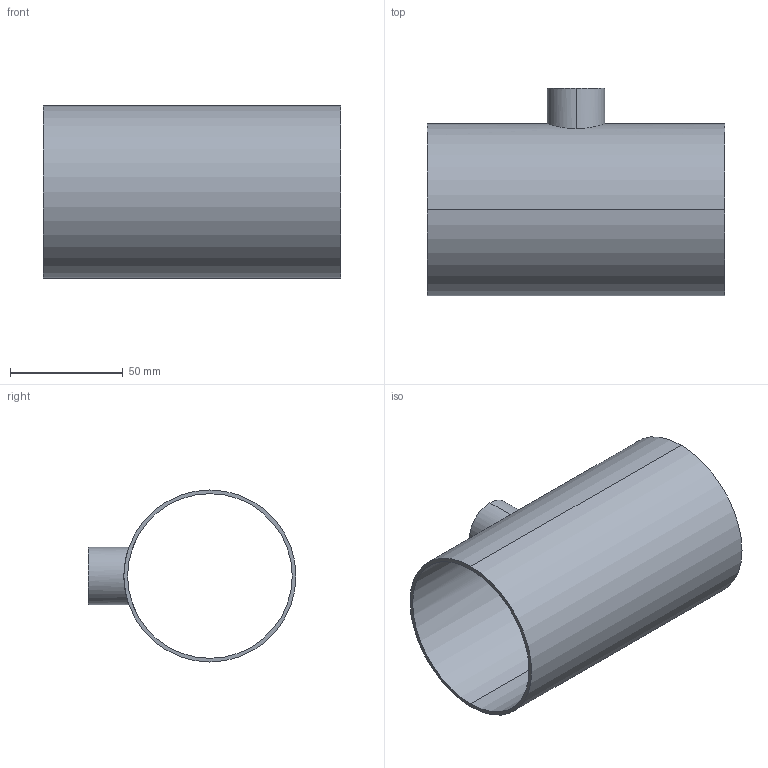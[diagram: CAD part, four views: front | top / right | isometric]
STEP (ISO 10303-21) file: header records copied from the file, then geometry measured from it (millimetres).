
FILE_DESCRIPTION (( 'STEP AP203' ), '1' );
FILE_NAME ('E7RWWW3.0X1.0.STEP', '2018-04-30T18:47:46', ( 'vneprd' ), ( 'Microsoft' ), 'SwSTEP 2.0', 'SolidWorks 2014', '' );
FILE_SCHEMA (( 'CONFIG_CONTROL_DESIGN' ));
Length unit declared in the file: inch
Products named in the file (1): E7RWWW3.0X1.0
Bounding box: 131.75 x 92.08 x 76.2 mm (x, y, z)
Volume: 52375.3 mm3; surface area: 64335.7 mm2
Topology: 1 solids, 1 shells, 11 faces, 24 edges, 16 vertices
Faces by surface type: cylinder 8, plane 3
Entity records: 579 total; most frequent: CARTESIAN_POINT 242, DIRECTION 56, ORIENTED_EDGE 48, AXIS2_PLACEMENT_3D 24, EDGE_CURVE 24, VERTEX_POINT 16, EDGE_LOOP 16, CIRCLE 12
